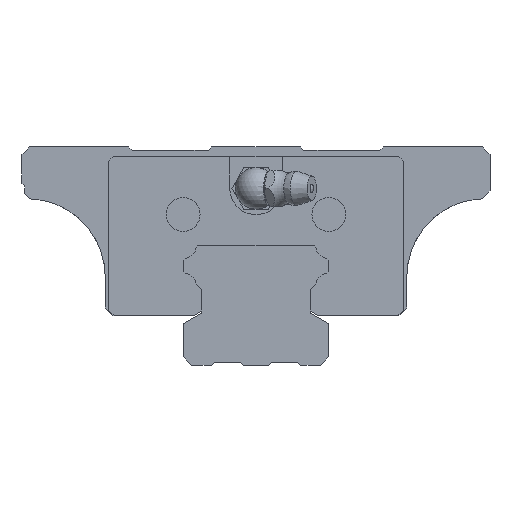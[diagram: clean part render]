
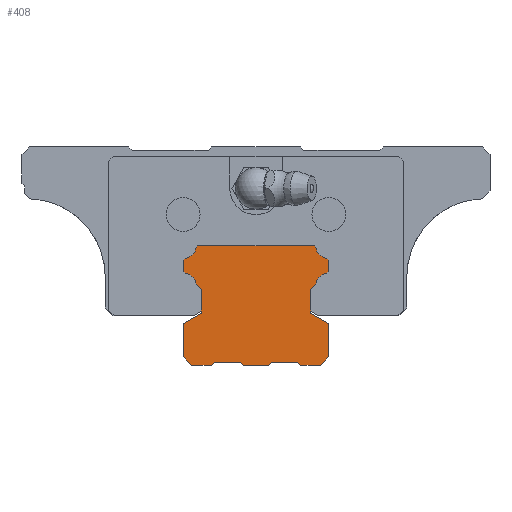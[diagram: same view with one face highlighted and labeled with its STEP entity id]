
A CAD part, front view. The second image highlights one B-rep face of the part: STEP entity #408.
In plain terms, the highlighted planar face has unit normal (0, -1, 0).
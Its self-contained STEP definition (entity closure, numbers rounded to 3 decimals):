
#255=CIRCLE('',#3771,2.6);
#257=CIRCLE('',#3777,2.6);
#268=CIRCLE('',#3809,2.6);
#270=CIRCLE('',#3815,2.6);
#408=ADVANCED_FACE('',(#752),#601,.T.);
#601=PLANE('',#3819);
#752=FACE_OUTER_BOUND('',#932,.T.);
#932=EDGE_LOOP('',(#1354,#1355,#1356,#1357,#1358,#1359,#1360,#1361,#1362,
#1363,#1364,#1365,#1366,#1367,#1368,#1369,#1370,#1371,#1372,#1373,#1374,
#1375,#1376,#1377,#1378,#1379,#1380,#1381,#1382,#1383,#1384,#1385));
#1354=ORIENTED_EDGE('',*,*,#2494,.T.);
#1355=ORIENTED_EDGE('',*,*,#2564,.T.);
#1356=ORIENTED_EDGE('',*,*,#2567,.F.);
#1357=ORIENTED_EDGE('',*,*,#2570,.T.);
#1358=ORIENTED_EDGE('',*,*,#2573,.T.);
#1359=ORIENTED_EDGE('',*,*,#2576,.T.);
#1360=ORIENTED_EDGE('',*,*,#2579,.F.);
#1361=ORIENTED_EDGE('',*,*,#2587,.T.);
#1362=ORIENTED_EDGE('',*,*,#2591,.F.);
#1363=ORIENTED_EDGE('',*,*,#2594,.T.);
#1364=ORIENTED_EDGE('',*,*,#2597,.T.);
#1365=ORIENTED_EDGE('',*,*,#2601,.F.);
#1366=ORIENTED_EDGE('',*,*,#2605,.T.);
#1367=ORIENTED_EDGE('',*,*,#2608,.T.);
#1368=ORIENTED_EDGE('',*,*,#2611,.F.);
#1369=ORIENTED_EDGE('',*,*,#2614,.F.);
#1370=ORIENTED_EDGE('',*,*,#2617,.T.);
#1371=ORIENTED_EDGE('',*,*,#2620,.F.);
#1372=ORIENTED_EDGE('',*,*,#2623,.F.);
#1373=ORIENTED_EDGE('',*,*,#2626,.F.);
#1374=ORIENTED_EDGE('',*,*,#2629,.F.);
#1375=ORIENTED_EDGE('',*,*,#2632,.T.);
#1376=ORIENTED_EDGE('',*,*,#2635,.T.);
#1377=ORIENTED_EDGE('',*,*,#2638,.F.);
#1378=ORIENTED_EDGE('',*,*,#2536,.T.);
#1379=ORIENTED_EDGE('',*,*,#2544,.F.);
#1380=ORIENTED_EDGE('',*,*,#2547,.F.);
#1381=ORIENTED_EDGE('',*,*,#2550,.F.);
#1382=ORIENTED_EDGE('',*,*,#2553,.F.);
#1383=ORIENTED_EDGE('',*,*,#2556,.F.);
#1384=ORIENTED_EDGE('',*,*,#2559,.T.);
#1385=ORIENTED_EDGE('',*,*,#2562,.F.);
#2146=VERTEX_POINT('',#5046);
#2147=VERTEX_POINT('',#5048);
#2180=VERTEX_POINT('',#5136);
#2181=VERTEX_POINT('',#5137);
#2188=VERTEX_POINT('',#5153);
#2190=VERTEX_POINT('',#5159);
#2192=VERTEX_POINT('',#5165);
#2194=VERTEX_POINT('',#5171);
#2196=VERTEX_POINT('',#5177);
#2198=VERTEX_POINT('',#5183);
#2200=VERTEX_POINT('',#5192);
#2202=VERTEX_POINT('',#5198);
#2204=VERTEX_POINT('',#5204);
#2206=VERTEX_POINT('',#5210);
#2208=VERTEX_POINT('',#5216);
#2210=VERTEX_POINT('',#5222);
#2213=VERTEX_POINT('',#5233);
#2215=VERTEX_POINT('',#5240);
#2217=VERTEX_POINT('',#5246);
#2219=VERTEX_POINT('',#5252);
#2221=VERTEX_POINT('',#5259);
#2222=VERTEX_POINT('',#5266);
#2224=VERTEX_POINT('',#5272);
#2226=VERTEX_POINT('',#5278);
#2228=VERTEX_POINT('',#5284);
#2230=VERTEX_POINT('',#5290);
#2232=VERTEX_POINT('',#5296);
#2234=VERTEX_POINT('',#5302);
#2236=VERTEX_POINT('',#5308);
#2238=VERTEX_POINT('',#5314);
#2240=VERTEX_POINT('',#5320);
#2242=VERTEX_POINT('',#5326);
#2494=EDGE_CURVE('',#2147,#2146,#3003,.T.);
#2536=EDGE_CURVE('',#2180,#2181,#3024,.T.);
#2544=EDGE_CURVE('',#2188,#2181,#3028,.T.);
#2547=EDGE_CURVE('',#2190,#2188,#3031,.T.);
#2550=EDGE_CURVE('',#2192,#2190,#255,.T.);
#2553=EDGE_CURVE('',#2194,#2192,#3035,.T.);
#2556=EDGE_CURVE('',#2196,#2194,#3038,.T.);
#2559=EDGE_CURVE('',#2196,#2198,#3041,.T.);
#2562=EDGE_CURVE('',#2147,#2198,#257,.T.);
#2564=EDGE_CURVE('',#2146,#2200,#3044,.T.);
#2567=EDGE_CURVE('',#2202,#2200,#3047,.T.);
#2570=EDGE_CURVE('',#2202,#2204,#3050,.T.);
#2573=EDGE_CURVE('',#2204,#2206,#3053,.T.);
#2576=EDGE_CURVE('',#2206,#2208,#3056,.T.);
#2579=EDGE_CURVE('',#2210,#2208,#3059,.T.);
#2587=EDGE_CURVE('',#2210,#2213,#3063,.T.);
#2591=EDGE_CURVE('',#2215,#2213,#3066,.T.);
#2594=EDGE_CURVE('',#2215,#2217,#3068,.T.);
#2597=EDGE_CURVE('',#2217,#2219,#3070,.T.);
#2601=EDGE_CURVE('',#2221,#2219,#3073,.T.);
#2605=EDGE_CURVE('',#2221,#2222,#3074,.T.);
#2608=EDGE_CURVE('',#2222,#2224,#3077,.T.);
#2611=EDGE_CURVE('',#2226,#2224,#3080,.T.);
#2614=EDGE_CURVE('',#2228,#2226,#3083,.T.);
#2617=EDGE_CURVE('',#2228,#2230,#3086,.T.);
#2620=EDGE_CURVE('',#2232,#2230,#3089,.T.);
#2623=EDGE_CURVE('',#2234,#2232,#3092,.T.);
#2626=EDGE_CURVE('',#2236,#2234,#268,.T.);
#2629=EDGE_CURVE('',#2238,#2236,#3096,.T.);
#2632=EDGE_CURVE('',#2238,#2240,#3099,.T.);
#2635=EDGE_CURVE('',#2240,#2242,#3102,.T.);
#2638=EDGE_CURVE('',#2180,#2242,#270,.T.);
#3003=LINE('',#5047,#3367);
#3024=LINE('',#5135,#3388);
#3028=LINE('',#5152,#3392);
#3031=LINE('',#5158,#3395);
#3035=LINE('',#5170,#3399);
#3038=LINE('',#5176,#3402);
#3041=LINE('',#5182,#3405);
#3044=LINE('',#5191,#3408);
#3047=LINE('',#5197,#3411);
#3050=LINE('',#5203,#3414);
#3053=LINE('',#5209,#3417);
#3056=LINE('',#5215,#3420);
#3059=LINE('',#5221,#3423);
#3063=LINE('',#5234,#3427);
#3066=LINE('',#5241,#3430);
#3068=LINE('',#5247,#3432);
#3070=LINE('',#5253,#3434);
#3073=LINE('',#5260,#3437);
#3074=LINE('',#5265,#3438);
#3077=LINE('',#5271,#3441);
#3080=LINE('',#5277,#3444);
#3083=LINE('',#5283,#3447);
#3086=LINE('',#5289,#3450);
#3089=LINE('',#5295,#3453);
#3092=LINE('',#5301,#3456);
#3096=LINE('',#5313,#3460);
#3099=LINE('',#5319,#3463);
#3102=LINE('',#5325,#3466);
#3367=VECTOR('',#4049,1.);
#3388=VECTOR('',#4138,1.);
#3392=VECTOR('',#4152,1.);
#3395=VECTOR('',#4157,1.);
#3399=VECTOR('',#4169,1.);
#3402=VECTOR('',#4174,1.);
#3405=VECTOR('',#4179,1.);
#3408=VECTOR('',#4190,1.);
#3411=VECTOR('',#4195,1.);
#3414=VECTOR('',#4200,1.);
#3417=VECTOR('',#4205,1.);
#3420=VECTOR('',#4210,1.);
#3423=VECTOR('',#4215,1.);
#3427=VECTOR('',#4229,1.);
#3430=VECTOR('',#4236,1.);
#3432=VECTOR('',#4242,1.);
#3434=VECTOR('',#4248,1.);
#3437=VECTOR('',#4255,1.);
#3438=VECTOR('',#4264,1.);
#3441=VECTOR('',#4269,1.);
#3444=VECTOR('',#4274,1.);
#3447=VECTOR('',#4279,1.);
#3450=VECTOR('',#4284,1.);
#3453=VECTOR('',#4289,1.);
#3456=VECTOR('',#4294,1.);
#3460=VECTOR('',#4306,1.);
#3463=VECTOR('',#4311,1.);
#3466=VECTOR('',#4316,1.);
#3771=AXIS2_PLACEMENT_3D('',#5164,#4162,#4163);
#3777=AXIS2_PLACEMENT_3D('',#5188,#4184,#4185);
#3809=AXIS2_PLACEMENT_3D('',#5307,#4299,#4300);
#3815=AXIS2_PLACEMENT_3D('',#5331,#4321,#4322);
#3819=AXIS2_PLACEMENT_3D('',#5335,#4329,#4330);
#4049=DIRECTION('',(0.707,0.,-0.707));
#4138=DIRECTION('',(-0.707,0.,0.707));
#4152=DIRECTION('',(1.,0.,0.));
#4157=DIRECTION('',(0.707,0.,0.707));
#4162=DIRECTION('',(0.,-1.,0.));
#4163=DIRECTION('',(1.,0.,0.));
#4169=DIRECTION('',(0.707,0.,0.707));
#4174=DIRECTION('',(0.,0.,1.));
#4179=DIRECTION('',(0.707,0.,-0.707));
#4184=DIRECTION('',(0.,-1.,0.));
#4185=DIRECTION('',(1.,0.,0.));
#4190=DIRECTION('',(0.,0.,-1.));
#4195=DIRECTION('',(0.866,0.,0.5));
#4200=DIRECTION('',(0.,0.,-1.));
#4205=DIRECTION('',(0.707,0.,-0.707));
#4210=DIRECTION('',(1.,0.,0.));
#4215=DIRECTION('',(-0.707,0.,-0.707));
#4229=DIRECTION('',(1.,0.,0.));
#4236=DIRECTION('',(-0.707,0.,0.707));
#4242=DIRECTION('',(1.,0.,0.));
#4248=DIRECTION('',(0.707,0.,0.707));
#4255=DIRECTION('',(-1.,0.,0.));
#4264=DIRECTION('',(0.707,0.,-0.707));
#4269=DIRECTION('',(1.,0.,0.));
#4274=DIRECTION('',(-0.707,0.,-0.707));
#4279=DIRECTION('',(0.,0.,-1.));
#4284=DIRECTION('',(-0.866,0.,0.5));
#4289=DIRECTION('',(0.,0.,-1.));
#4294=DIRECTION('',(-0.707,0.,-0.707));
#4299=DIRECTION('',(0.,-1.,0.));
#4300=DIRECTION('',(1.,0.,0.));
#4306=DIRECTION('',(-0.707,0.,-0.707));
#4311=DIRECTION('',(0.,0.,1.));
#4316=DIRECTION('',(-0.707,0.,0.707));
#4321=DIRECTION('',(0.,-1.,0.));
#4322=DIRECTION('',(1.,0.,0.));
#4329=DIRECTION('',(0.,-1.,0.));
#4330=DIRECTION('',(0.,0.,-1.));
#5046=CARTESIAN_POINT('',(-10.5,-140.,14.601));
#5047=CARTESIAN_POINT('',(-11.512,-140.,15.612));
#5048=CARTESIAN_POINT('',(-11.512,-140.,15.612));
#5135=CARTESIAN_POINT('',(11.512,-140.,22.588));
#5136=CARTESIAN_POINT('',(11.512,-140.,22.588));
#5137=CARTESIAN_POINT('',(11.169,-140.,22.93));
#5152=CARTESIAN_POINT('',(-11.169,-140.,22.93));
#5153=CARTESIAN_POINT('',(-11.169,-140.,22.93));
#5158=CARTESIAN_POINT('',(-11.512,-140.,22.588));
#5159=CARTESIAN_POINT('',(-11.512,-140.,22.588));
#5164=CARTESIAN_POINT('',(-14.067,-140.,23.067));
#5165=CARTESIAN_POINT('',(-13.588,-140.,20.512));
#5170=CARTESIAN_POINT('',(-13.93,-140.,20.169));
#5171=CARTESIAN_POINT('',(-13.93,-140.,20.169));
#5176=CARTESIAN_POINT('',(-13.93,-140.,18.031));
#5177=CARTESIAN_POINT('',(-13.93,-140.,18.031));
#5182=CARTESIAN_POINT('',(-13.93,-140.,18.031));
#5183=CARTESIAN_POINT('',(-13.588,-140.,17.688));
#5188=CARTESIAN_POINT('',(-14.067,-140.,15.133));
#5191=CARTESIAN_POINT('',(-10.5,-140.,10.367));
#5192=CARTESIAN_POINT('',(-10.5,-140.,10.021));
#5197=CARTESIAN_POINT('',(-14.,-140.,8.));
#5198=CARTESIAN_POINT('',(-14.,-140.,8.));
#5203=CARTESIAN_POINT('',(-14.,-140.,8.));
#5204=CARTESIAN_POINT('',(-14.,-140.,1.6));
#5209=CARTESIAN_POINT('',(-14.,-140.,1.6));
#5210=CARTESIAN_POINT('',(-12.4,-140.,0.));
#5215=CARTESIAN_POINT('',(-12.4,-140.,0.));
#5216=CARTESIAN_POINT('',(-8.6,-140.,0.));
#5221=CARTESIAN_POINT('',(-8.,-140.,0.6));
#5222=CARTESIAN_POINT('',(-8.,-140.,0.6));
#5233=CARTESIAN_POINT('',(-3.,-140.,0.6));
#5234=CARTESIAN_POINT('',(-8.,-140.,0.6));
#5240=CARTESIAN_POINT('',(-2.4,-140.,0.));
#5241=CARTESIAN_POINT('',(-2.4,-140.,0.));
#5246=CARTESIAN_POINT('',(2.4,-140.,0.));
#5247=CARTESIAN_POINT('',(-2.4,-140.,0.));
#5252=CARTESIAN_POINT('',(3.,-140.,0.6));
#5253=CARTESIAN_POINT('',(2.4,-140.,0.));
#5259=CARTESIAN_POINT('',(8.,-140.,0.6));
#5260=CARTESIAN_POINT('',(8.,-140.,0.6));
#5265=CARTESIAN_POINT('',(8.,-140.,0.6));
#5266=CARTESIAN_POINT('',(8.6,-140.,0.));
#5271=CARTESIAN_POINT('',(8.6,-140.,0.));
#5272=CARTESIAN_POINT('',(12.4,-140.,0.));
#5277=CARTESIAN_POINT('',(14.,-140.,1.6));
#5278=CARTESIAN_POINT('',(14.,-140.,1.6));
#5283=CARTESIAN_POINT('',(14.,-140.,8.));
#5284=CARTESIAN_POINT('',(14.,-140.,8.));
#5289=CARTESIAN_POINT('',(14.,-140.,8.));
#5290=CARTESIAN_POINT('',(10.5,-140.,10.021));
#5295=CARTESIAN_POINT('',(10.5,-140.,10.367));
#5296=CARTESIAN_POINT('',(10.5,-140.,14.601));
#5301=CARTESIAN_POINT('',(11.512,-140.,15.612));
#5302=CARTESIAN_POINT('',(11.512,-140.,15.612));
#5307=CARTESIAN_POINT('',(14.067,-140.,15.133));
#5308=CARTESIAN_POINT('',(13.588,-140.,17.688));
#5313=CARTESIAN_POINT('',(13.93,-140.,18.031));
#5314=CARTESIAN_POINT('',(13.93,-140.,18.031));
#5319=CARTESIAN_POINT('',(13.93,-140.,18.031));
#5320=CARTESIAN_POINT('',(13.93,-140.,20.169));
#5325=CARTESIAN_POINT('',(13.93,-140.,20.169));
#5326=CARTESIAN_POINT('',(13.588,-140.,20.512));
#5331=CARTESIAN_POINT('',(14.067,-140.,23.067));
#5335=CARTESIAN_POINT('',(-14.067,-140.,23.067));
